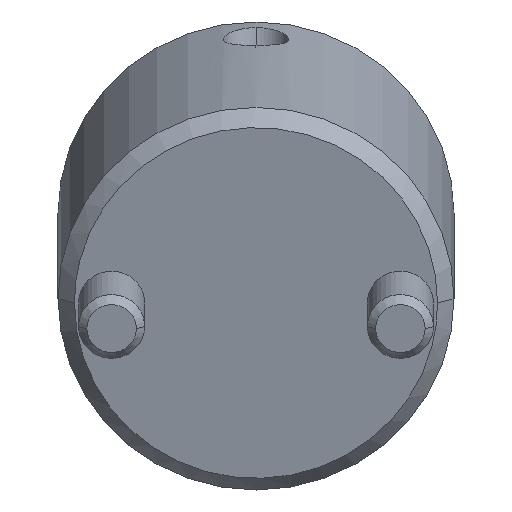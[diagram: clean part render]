
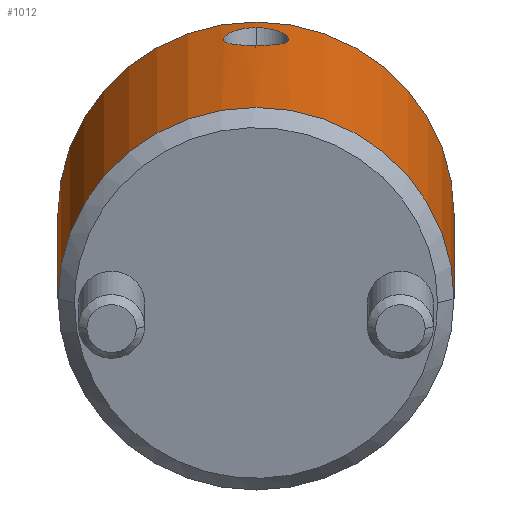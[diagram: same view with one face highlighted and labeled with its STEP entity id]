
A CAD part, front view. The second image highlights one B-rep face of the part: STEP entity #1012.
In plain terms, the highlighted cylindrical face has radius 12 mm (diameter 24 mm), a partial arc.
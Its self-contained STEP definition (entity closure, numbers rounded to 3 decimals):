
#778=CARTESIAN_POINT('Vertex',(0.,12.,1.)) ;
#781=CARTESIAN_POINT('Axis2P3D Location',(0.,0.,1.)) ;
#785=CARTESIAN_POINT('Vertex',(0.,-12.,1.)) ;
#925=CARTESIAN_POINT('Axis2P3D Location',(0.,0.,-1.1)) ;
#930=CARTESIAN_POINT('Line Origine',(0.,12.,-1.1)) ;
#934=CARTESIAN_POINT('Vertex',(0.,12.,21.)) ;
#937=CARTESIAN_POINT('Axis2P3D Location',(0.,0.,21.)) ;
#941=CARTESIAN_POINT('Vertex',(0.,-12.,21.)) ;
#944=CARTESIAN_POINT('Line Origine',(0.,-12.,-1.1)) ;
#956=CARTESIAN_POINT('Control Point',(12.,0.,19.674)) ;
#957=CARTESIAN_POINT('Control Point',(12.,0.342,19.674)) ;
#958=CARTESIAN_POINT('Control Point',(11.988,0.675,19.596)) ;
#959=CARTESIAN_POINT('Control Point',(11.964,0.993,19.44)) ;
#960=CARTESIAN_POINT('Control Point',(11.923,1.377,19.137)) ;
#961=CARTESIAN_POINT('Control Point',(11.885,1.661,18.739)) ;
#962=CARTESIAN_POINT('Control Point',(11.874,1.735,18.615)) ;
#963=CARTESIAN_POINT('Control Point',(11.855,1.861,18.357)) ;
#964=CARTESIAN_POINT('Control Point',(11.842,1.943,18.08)) ;
#965=CARTESIAN_POINT('Control Point',(11.837,1.974,17.937)) ;
#966=CARTESIAN_POINT('Control Point',(11.831,2.01,17.654)) ;
#967=CARTESIAN_POINT('Control Point',(11.832,1.999,17.37)) ;
#968=CARTESIAN_POINT('Control Point',(11.835,1.981,17.229)) ;
#969=CARTESIAN_POINT('Control Point',(11.845,1.924,16.953)) ;
#970=CARTESIAN_POINT('Control Point',(11.861,1.822,16.694)) ;
#971=CARTESIAN_POINT('Control Point',(11.87,1.76,16.57)) ;
#972=CARTESIAN_POINT('Control Point',(11.909,1.492,16.13)) ;
#973=CARTESIAN_POINT('Control Point',(11.956,1.093,15.79)) ;
#974=CARTESIAN_POINT('Control Point',(11.985,0.743,15.618)) ;
#975=CARTESIAN_POINT('Control Point',(12.,0.376,15.533)) ;
#976=CARTESIAN_POINT('Control Point',(12.,0.,15.533)) ;
#977=CARTESIAN_POINT('Vertex',(12.,0.,19.674)) ;
#979=CARTESIAN_POINT('Vertex',(12.,0.,15.533)) ;
#983=CARTESIAN_POINT('Control Point',(12.,0.,15.533)) ;
#984=CARTESIAN_POINT('Control Point',(12.,-0.139,15.533)) ;
#985=CARTESIAN_POINT('Control Point',(11.998,-0.276,15.544)) ;
#986=CARTESIAN_POINT('Control Point',(11.994,-0.413,15.568)) ;
#987=CARTESIAN_POINT('Control Point',(11.982,-0.68,15.638)) ;
#988=CARTESIAN_POINT('Control Point',(11.965,-0.932,15.753)) ;
#989=CARTESIAN_POINT('Control Point',(11.955,-1.053,15.822)) ;
#990=CARTESIAN_POINT('Control Point',(11.933,-1.281,15.979)) ;
#991=CARTESIAN_POINT('Control Point',(11.909,-1.477,16.172)) ;
#992=CARTESIAN_POINT('Control Point',(11.898,-1.566,16.277)) ;
#993=CARTESIAN_POINT('Control Point',(11.864,-1.81,16.618)) ;
#994=CARTESIAN_POINT('Control Point',(11.839,-1.959,17.013)) ;
#995=CARTESIAN_POINT('Control Point',(11.83,-2.013,17.296)) ;
#996=CARTESIAN_POINT('Control Point',(11.829,-2.021,17.726)) ;
#997=CARTESIAN_POINT('Control Point',(11.844,-1.926,18.144)) ;
#998=CARTESIAN_POINT('Control Point',(11.851,-1.883,18.282)) ;
#999=CARTESIAN_POINT('Control Point',(11.869,-1.775,18.549)) ;
#1000=CARTESIAN_POINT('Control Point',(11.89,-1.624,18.795)) ;
#1001=CARTESIAN_POINT('Control Point',(11.902,-1.538,18.912)) ;
#1002=CARTESIAN_POINT('Control Point',(11.938,-1.246,19.247)) ;
#1003=CARTESIAN_POINT('Control Point',(11.972,-0.876,19.494)) ;
#1004=CARTESIAN_POINT('Control Point',(11.991,-0.596,19.613)) ;
#1005=CARTESIAN_POINT('Control Point',(12.,-0.302,19.674)) ;
#1006=CARTESIAN_POINT('Control Point',(12.,0.,19.674)) ;
#782=DIRECTION('Axis2P3D Direction',(0.,0.,1.)) ;
#926=DIRECTION('Axis2P3D Direction',(0.,-0.,1.)) ;
#927=DIRECTION('Axis2P3D XDirection',(0.,-1.,0.)) ;
#931=DIRECTION('Vector Direction',(0.,0.,1.)) ;
#938=DIRECTION('Axis2P3D Direction',(0.,-0.,1.)) ;
#945=DIRECTION('Vector Direction',(0.,0.,1.)) ;
#783=AXIS2_PLACEMENT_3D('Circle Axis2P3D',#781,#782,$) ;
#928=AXIS2_PLACEMENT_3D('Cylinder Axis2P3D',#925,#926,#927) ;
#939=AXIS2_PLACEMENT_3D('Circle Axis2P3D',#937,#938,$) ;
#950=ORIENTED_EDGE('',*,*,#936,.F.) ;
#951=ORIENTED_EDGE('',*,*,#943,.T.) ;
#952=ORIENTED_EDGE('',*,*,#948,.T.) ;
#953=ORIENTED_EDGE('',*,*,#787,.F.) ;
#1009=ORIENTED_EDGE('',*,*,#981,.T.) ;
#1010=ORIENTED_EDGE('',*,*,#1007,.T.) ;
#1011=FACE_BOUND('',#1008,.T.) ;
#932=VECTOR('Line Direction',#931,1.) ;
#946=VECTOR('Line Direction',#945,1.) ;
#1012=ADVANCED_FACE('MANIFOLD_SOLID_BREP #1097',(#954,#1011),#929,.T.) ;
#955=B_SPLINE_CURVE_WITH_KNOTS('',5,(#956,#957,#958,#959,#960,#961,#962,#963,#964,#965,#966,#967,#968,#969,#970,#971,#972,#973,#974,#975,#976),.UNSPECIFIED.,.F.,.U.,(6,3,3,3,3,3,6),(0.,2.418,3.432,4.439,5.429,6.409,9.064),.UNSPECIFIED.) ;
#982=B_SPLINE_CURVE_WITH_KNOTS('',5,(#983,#984,#985,#986,#987,#988,#989,#990,#991,#992,#993,#994,#995,#996,#997,#998,#999,#1000,#1001,#1002,#1003,#1004,#1005,#1006),.UNSPECIFIED.,.F.,.U.,(6,3,3,3,3,3,3,6),(0.,0.981,1.96,2.939,4.919,5.933,6.943,9.071),.UNSPECIFIED.) ;
#784=CIRCLE('generated circle',#783,12.) ;
#940=CIRCLE('generated circle',#939,12.) ;
#929=CYLINDRICAL_SURFACE('generated cylinder',#928,12.) ;
#787=EDGE_CURVE('',#779,#786,#784,.F.) ;
#936=EDGE_CURVE('',#935,#779,#933,.F.) ;
#943=EDGE_CURVE('',#935,#942,#940,.F.) ;
#948=EDGE_CURVE('',#942,#786,#947,.F.) ;
#981=EDGE_CURVE('',#978,#980,#955,.T.) ;
#1007=EDGE_CURVE('',#980,#978,#982,.T.) ;
#949=EDGE_LOOP('',(#950,#951,#952,#953)) ;
#1008=EDGE_LOOP('',(#1009,#1010)) ;
#954=FACE_OUTER_BOUND('',#949,.T.) ;
#933=LINE('Line',#930,#932) ;
#947=LINE('Line',#944,#946) ;
#779=VERTEX_POINT('',#778) ;
#786=VERTEX_POINT('',#785) ;
#935=VERTEX_POINT('',#934) ;
#942=VERTEX_POINT('',#941) ;
#978=VERTEX_POINT('',#977) ;
#980=VERTEX_POINT('',#979) ;
